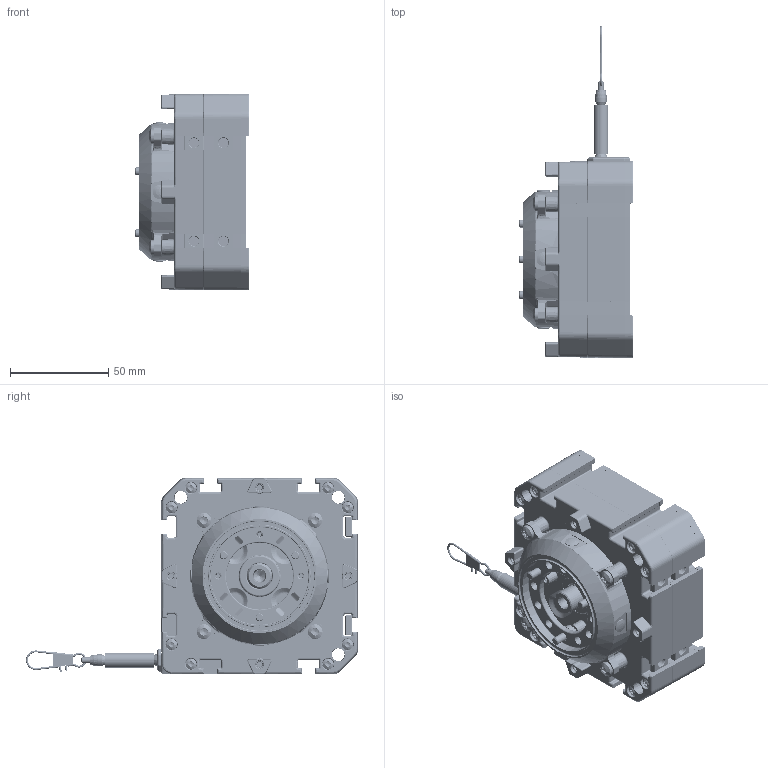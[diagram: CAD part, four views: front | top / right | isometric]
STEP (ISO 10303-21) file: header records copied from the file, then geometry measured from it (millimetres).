
FILE_DESCRIPTION((''),'2;1');
FILE_NAME('WPS-2500-K100-M_ASM','2025-07-23T10:09:10',('15000767'),(''),'CREO PARAMETRIC BY PTC INC, 2022164','CREO PARAMETRIC BY PTC INC, 2022164','');
FILE_SCHEMA(('AUTOMOTIVE_DESIGN { 1 0 10303 214 1 1 1 1 }'));
Products named in the file (49): TELESO_PRUZINY_K100_AF0; TB_K100_STANDARD_AF0; HRID_TESNENI_10X16X5_AF0; HRIDEL_MCS-100_M_AF0; KRYT_BUBINKU_K100_FORMA_AF0; VRUT_WN-1452_KT30X14_AF0; VRUT_WN-1452_KT30X14_AF1; VRUT_WN-1452_KT30X14_AF2; VRUT_WN-1452_KT30X14_AF3; VRUT_WN-1452_KT30X14_AF4; VRUT_WN-1452_KT30X14_AF5; VRUT_WN-1452_KT30X14_AF6; VRUT_WN-1452_KT30X14_AF7; VRUT_WN-1452_KT30X14_AF8; VRUT_WN-1452_KT30X14_AF9; VRUT_WN-1452_KT30X14_AF10; VRUT_WN-1452_KT30X14_AF11; VRUT_WN-1452_KT30X14_AF12; VRUT_WN-1452_KT30X14_AF13; VRUT_WN-1452_KT30X14_AF14; VRUT_WN-1452_KT30X14_AF15; APBK_K100_AF0; VRUT_WN-1452_KT30X8_AF0; DPBK_MCS-100_5I2_P5_AF0; KERAMICKA_PRUCHODKA_1I1; KARABINKA_SPECIALNI; GP_7I5X2I0X25_EXT_EPDM60; KARABINKA_DORAZ_25_ASM; PRIRUBA_SYNCHRO_KXXX_AF0; SROUB_ISO4029_STAV_HEX_M3X3_AF0; PODLOZKA_M4_VEJIROVA_AF0; PODLOZKA_M4_VEJIROVA_AF1; PODLOZKA_M4_VEJIROVA_AF2; SROUB_DIN7985A_COCK_PZ_M4X10_AF0; SROUB_DIN7985A_COCK_PZ_M4X10_AF1; SROUB_DIN7985A_COCK_PZ_M4X10_AF2; VRUT_WN-1452_KT40X10_AF0; VRUT_WN-1452_KT40X10_AF1; VRUT_WN-1452_KT40X10_AF2; VRUT_WN-1452_KT40X10_AF3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
Assembly tree (48 placements, depth 3):
  WPS-2500-K100-M_ASM
    TELESO_PRUZINY_K100_AF0
    TB_K100_STANDARD_AF0
    HRID_TESNENI_10X16X5_AF0
    HRIDEL_MCS-100_M_AF0
    KRYT_BUBINKU_K100_FORMA_AF0
    VRUT_WN-1452_KT30X14_AF0
    VRUT_WN-1452_KT30X14_AF1
    VRUT_WN-1452_KT30X14_AF2
    VRUT_WN-1452_KT30X14_AF3
    VRUT_WN-1452_KT30X14_AF4
    VRUT_WN-1452_KT30X14_AF5
    VRUT_WN-1452_KT30X14_AF6
    VRUT_WN-1452_KT30X14_AF7
    VRUT_WN-1452_KT30X14_AF8
    VRUT_WN-1452_KT30X14_AF9
    VRUT_WN-1452_KT30X14_AF10
    VRUT_WN-1452_KT30X14_AF11
    VRUT_WN-1452_KT30X14_AF12
    VRUT_WN-1452_KT30X14_AF13
    VRUT_WN-1452_KT30X14_AF14
    VRUT_WN-1452_KT30X14_AF15
    APBK_K100_AF0
    VRUT_WN-1452_KT30X8_AF0
    DPBK_MCS-100_5I2_P5_AF0
    KERAMICKA_PRUCHODKA_1I1
    KARABINKA_DORAZ_25_ASM
      KARABINKA_SPECIALNI
      GP_7I5X2I0X25_EXT_EPDM60
    PRIRUBA_SYNCHRO_KXXX_AF0
    SROUB_ISO4029_STAV_HEX_M3X3_AF0
    PODLOZKA_M4_VEJIROVA_AF0
    PODLOZKA_M4_VEJIROVA_AF1
    PODLOZKA_M4_VEJIROVA_AF2
    SROUB_DIN7985A_COCK_PZ_M4X10_AF0
    SROUB_DIN7985A_COCK_PZ_M4X10_AF1
    SROUB_DIN7985A_COCK_PZ_M4X10_AF2
    VRUT_WN-1452_KT40X10_AF0
    VRUT_WN-1452_KT40X10_AF1
    VRUT_WN-1452_KT40X10_AF2
    VRUT_WN-1452_KT40X10_AF3
    MATICE_4HRANNA_DIN562_M6_AF0
    MATICE_4HRANNA_DIN562_M6_AF1
    MATICE_4HRANNA_DIN562_M6_AF2
    MATICE_4HRANNA_DIN562_M6_AF3
    ZASLEPKA5_7X5X4I5_AF0
    ZASLEPKA5_7X5X4I5_AF1
    ZASLEPKA5_7X5X4I5_AF2
    ZASLEPKA5_7X5X4I5_AF3
Bounding box: 57.95 x 168.72 x 100.06 mm (x, y, z)
Volume: 96366.8 mm3; surface area: 109894.5 mm2
Topology: 46 solids, 46 shells, 4339 faces, 10466 edges, 6274 vertices
Faces by surface type: cylinder 1365, plane 1156, torus 741, cone 611, bspline 360, sphere 90, revolution 12, extrusion 4
Entity records: 199213 total; most frequent: CARTESIAN_POINT 54398, DIRECTION 21832, ORIENTED_EDGE 20818, PRESENTATION_STYLE_ASSIGNMENT 11922, STYLED_ITEM 11921, CURVE_STYLE 10421, EDGE_CURVE 10409, AXIS2_PLACEMENT_3D 9009
